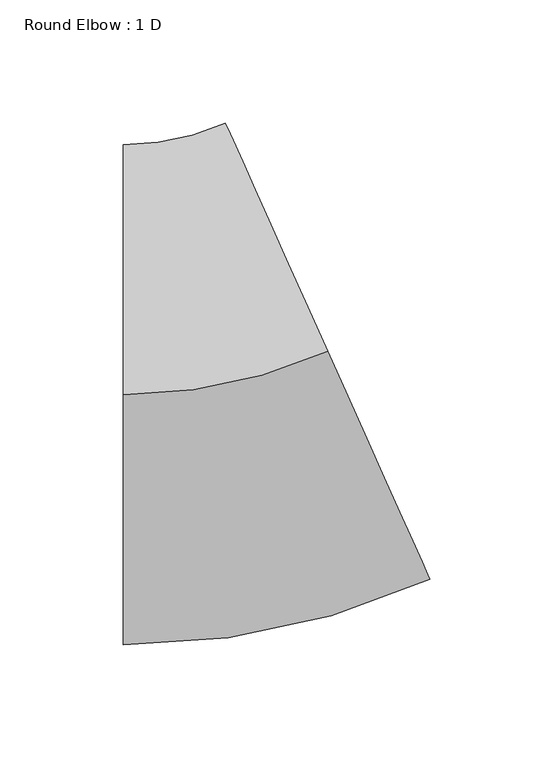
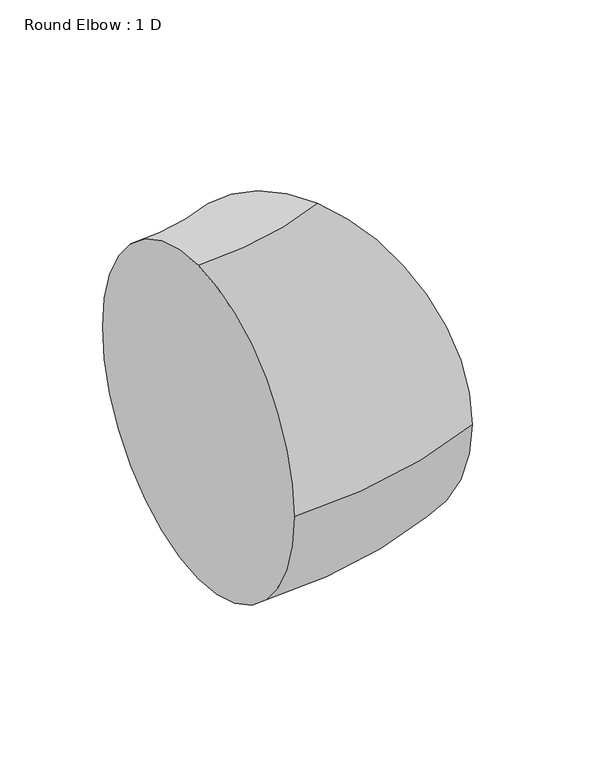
"""IFC4 building model written with IfcOpenShell, lengths in millimetres: duct fitting geometry, Round Elbow : 1 D."""

from ifc_helpers import new_model, si_unit, point, frame, origin, place, context, project, spatial, circle_curve, ellipse_curve, trimmed, source, transform, mapped, element, save
from ifc_brep_helpers import plane_surface, revolved_surface, advanced_brep


def round_elbow_1_d_9b139ee9(model_context):
    return source(origin(), model_context, "Body", "AdvancedBrep", [
        advanced_brep(
        [(-43.4802105, 0.0, 101.6), (-43.4802105, 101.6, 0.0), (-43.4802105, 0.0, -101.6), (-43.4802105, -101.6, 0.0), (39.672933, 17.7928946, 101.6), (81.2495047, -74.9106581, 0.0), (39.672933, 17.7928946, -101.6), (-1.9036388, 110.4964473, 0.0)],
        [
            (0, 1, circle_curve(frame((-43.4802105, 0.0, 0.0), z_axis=(-1.0, 0.0, 0.0), x_axis=(0.0, 1.0, 0.0)), 101.6)),
            (1, 2, circle_curve(frame((-43.4802105, 0.0, 0.0), z_axis=(-1.0, 0.0, 0.0), x_axis=(0.0, 1.0, 0.0)), 101.6)),
            (2, 3, circle_curve(frame((-43.4802105, 0.0, 0.0), z_axis=(-1.0, 0.0, 0.0), x_axis=(0.0, 1.0, 0.0)), 101.6)),
            (3, 0, circle_curve(frame((-43.4802105, 0.0, 0.0), z_axis=(-1.0, 0.0, 0.0), x_axis=(0.0, 1.0, 0.0)), 101.6)),
            (4, 5, circle_curve(frame((39.672933, 17.7928946, 0.0), z_axis=(0.912436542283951, 0.4092182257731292, 0.0), x_axis=(-0.4092182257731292, 0.912436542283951, 0.0)), 101.6)),
            (5, 6, circle_curve(frame((39.672933, 17.7928946, 0.0), z_axis=(0.912436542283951, 0.4092182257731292, 0.0), x_axis=(-0.4092182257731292, 0.912436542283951, 0.0)), 101.6)),
            (6, 7, circle_curve(frame((39.672933, 17.7928946, 0.0), z_axis=(0.912436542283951, 0.4092182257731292, 0.0), x_axis=(-0.4092182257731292, 0.912436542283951, 0.0)), 101.6)),
            (7, 4, circle_curve(frame((39.672933, 17.7928946, 0.0), z_axis=(0.912436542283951, 0.4092182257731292, 0.0), x_axis=(-0.4092182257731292, 0.912436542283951, 0.0)), 101.6)),
            (7, 1, circle_curve(frame((-43.4802105, 203.2, 0.0), z_axis=(0.0, 0.0, -1.0), x_axis=(0.0, -1.0, 0.0)), 101.6)),
            (0, 4, circle_curve(frame((-43.4802105, 203.2, 101.6), z_axis=(0.0, 0.0, 1.0), x_axis=(0.0, -1.0, 0.0)), 203.2)),
            (6, 2, circle_curve(frame((-43.4802105, 203.2, -101.6), z_axis=(0.0, 0.0, -1.0), x_axis=(0.0, -1.0, 0.0)), 203.2)),
            (5, 3, circle_curve(frame((-43.4802105, 203.2, 0.0), z_axis=(0.0, 0.0, -1.0), x_axis=(0.0, -1.0, 0.0)), 304.8)),
        ],
        [
            plane_surface(frame((-43.4802105, 0.0, 0.0), z_axis=(-1.0, 0.0, 0.0), x_axis=(0.0, 0.0, 1.0))),
            plane_surface(frame((39.672933, 17.7928946, 0.0), z_axis=(0.912436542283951, 0.4092182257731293, 0.0), x_axis=(0.0, 0.0, 1.0))),
            revolved_surface(trimmed(ellipse_curve(frame((-43.4802105, 0.0, 0.0), z_axis=(-1.0, 0.0, 0.0), x_axis=(0.0, 1.0, 0.0)), 101.6, 101.6), [point((-43.4802105, 0.0, 101.6))], [point((-43.4802105, 101.6, 0.0))], True, "CARTESIAN"), (-43.4802105, 203.2, 0.0), (0.0, 0.0, 1.0)),
            revolved_surface(trimmed(ellipse_curve(frame((-43.4802105, 0.0, 0.0), z_axis=(-1.0, 0.0, 0.0), x_axis=(0.0, 1.0, 0.0)), 101.6, 101.6), [point((-43.4802105, 101.6, 0.0))], [point((-43.4802105, 0.0, -101.6))], True, "CARTESIAN"), (-43.4802105, 203.2, 0.0), (0.0, 0.0, 1.0)),
            revolved_surface(trimmed(ellipse_curve(frame((-43.4802105, 0.0, 0.0), z_axis=(-1.0, 0.0, 0.0), x_axis=(0.0, 1.0, 0.0)), 101.6, 101.6), [point((-43.4802105, 0.0, -101.6))], [point((-43.4802105, -101.6, 0.0))], True, "CARTESIAN"), (-43.4802105, 203.2, 0.0), (0.0, 0.0, 1.0)),
            revolved_surface(trimmed(ellipse_curve(frame((-43.4802105, 0.0, 0.0), z_axis=(-1.0, 0.0, 0.0), x_axis=(0.0, 1.0, 0.0)), 101.6, 101.6), [point((-43.4802105, -101.6, 0.0))], [point((-43.4802105, 0.0, 101.6))], True, "CARTESIAN"), (-43.4802105, 203.2, 0.0), (0.0, 0.0, 1.0)),
        ],
        [
            (0, [[1, 2, 3, 4]]),
            (1, [[5, 6, 7, 8]]),
            (2, [[9, -1, 10, -8]]),
            (3, [[11, -2, -9, -7]]),
            (4, [[12, -3, -11, -6]]),
            (5, [[-10, -4, -12, -5]]),
        ],
    ),
    ])


if __name__ == "__main__":
    model = new_model("IFC4")
    model_context = context("Model", 3, world=origin())
    ifc_project = project(units=[si_unit("LENGTHUNIT", "METRE", prefix="MILLI")], contexts=[model_context])
    site = spatial("IfcSite", under=ifc_project)
    building = spatial("IfcBuilding", under=site)
    placement = place(None, origin())
    round_elbow_1_d_shape = round_elbow_1_d_9b139ee9(model_context)
    element("IfcDuctFitting", 1, ObjectType="Round Elbow : 1 D", at=placement, inside=building, context=model_context, shape_type="MappedRepresentation", body=[
        mapped(round_elbow_1_d_shape, transform((0.0, 0.0, 0.0), x_axis=(1.0, 0.0, 0.0), y_axis=(0.0, 1.0, 0.0), z_axis=(0.0, 0.0, 1.0))),
    ])
    save(model, "model.ifc")
